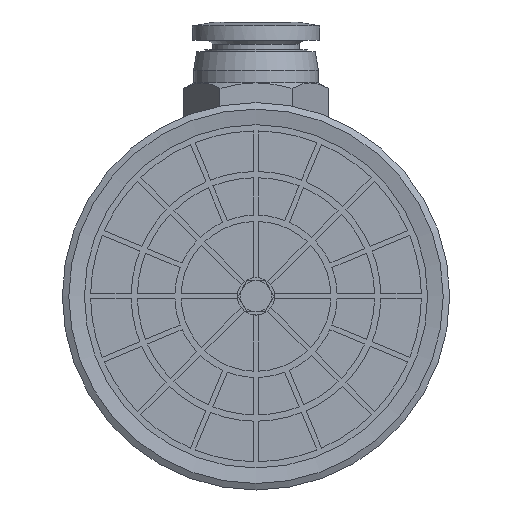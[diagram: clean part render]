
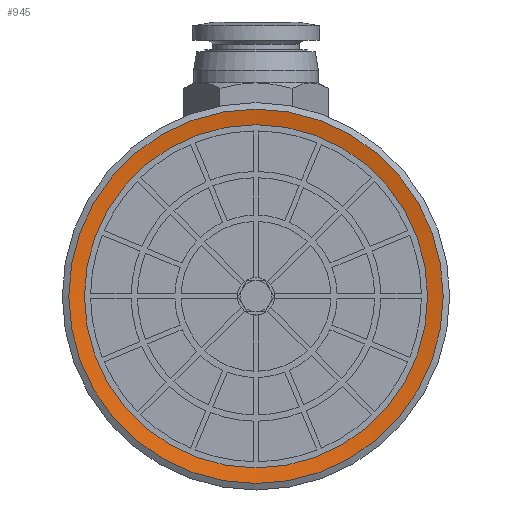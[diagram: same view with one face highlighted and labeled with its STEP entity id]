
A CAD part, front view. The second image highlights one B-rep face of the part: STEP entity #945.
In plain terms, the highlighted conical face has half-angle 80 degrees and reference radius 15 mm.
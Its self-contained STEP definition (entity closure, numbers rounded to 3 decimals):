
#945=ADVANCED_FACE('',(#1806,#1807),#1808,.F.);
#1806=FACE_BOUND('',#2924,.T.);
#1807=FACE_OUTER_BOUND('',#2925,.T.);
#1808=CONICAL_SURFACE('',#2926,15.0,1.396);
#2924=EDGE_LOOP('',(#5573));
#2925=EDGE_LOOP('',(#5574));
#2926=AXIS2_PLACEMENT_3D('',#5575,#5576,#5577);
#5573=ORIENTED_EDGE('',*,*,#6449,.T.);
#5574=ORIENTED_EDGE('',*,*,#6599,.F.);
#5575=CARTESIAN_POINT('',(0.0,0.,0.));
#5576=DIRECTION('',(0.0,0.,-1.0));
#5577=DIRECTION('',(0.0,1.0,0.));
#6449=EDGE_CURVE('',#7752,#7752,#7753,.T.);
#6599=EDGE_CURVE('',#7976,#7976,#7977,.T.);
#7752=VERTEX_POINT('',#10151);
#7753=CIRCLE('',#10152,13.75);
#7976=VERTEX_POINT('',#10487);
#7977=CIRCLE('',#10488,15.0);
#10151=CARTESIAN_POINT('',(0.0,-13.75,0.22));
#10152=AXIS2_PLACEMENT_3D('',#11641,#11642,#11643);
#10487=CARTESIAN_POINT('',(0.0,-15.0,0.));
#10488=AXIS2_PLACEMENT_3D('',#11867,#11868,#11869);
#11641=CARTESIAN_POINT('',(0.0,0.,0.22));
#11642=DIRECTION('',(0.0,0.,1.0));
#11643=DIRECTION('',(0.0,-1.0,0.));
#11867=CARTESIAN_POINT('',(0.0,0.,0.));
#11868=DIRECTION('',(0.0,0.,1.0));
#11869=DIRECTION('',(0.0,-1.0,0.));
